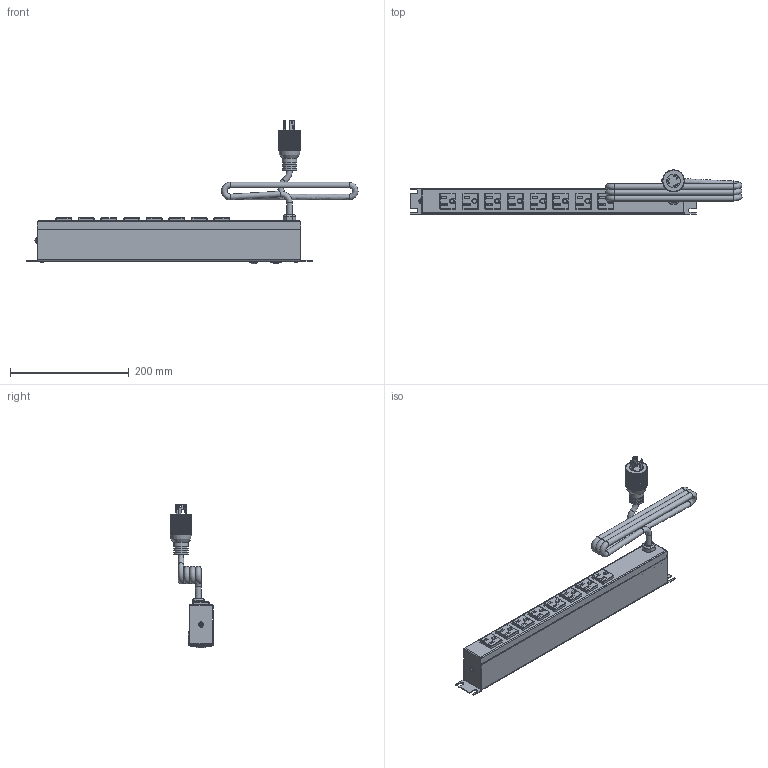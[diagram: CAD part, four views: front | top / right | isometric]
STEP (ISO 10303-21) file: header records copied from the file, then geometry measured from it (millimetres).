
FILE_DESCRIPTION((''),'2;1');
FILE_NAME('E:\Dutton\Manufacturing\drawings\Updated 2009\POWER BARS\1583 Series\STEP''s\1583H8C1BK.stp','2010-01-07T08:39:35',('tfoster'),(''),'Autodesk Inventor 2010','Autodesk Inventor 2010','');
FILE_SCHEMA(('AUTOMOTIVE_DESIGN { 1 0 10303 214 1 1 1 1 }'));
Products named in the file (12): 1583H8C1BK; 1583 Front plate; 1583H8 Back Plate; #6 - 0.375 Type A screw; Reset Switch; Power Switch Assembly; Power Switch; Power Switch pt; Twist Cored 2; Receptacle; toothwasher; round head 1-way 8-32 x 0.5 screw
Assembly tree (21 placements, depth 3):
  1583H8C1BK
    1583 Front plate
    1583H8 Back Plate
    #6 - 0.375 Type A screw  x4
    Reset Switch
    Power Switch Assembly
      Power Switch
      Power Switch pt
    Twist Cored 2
    Receptacle  x8
    toothwasher
    round head 1-way 8-32 x 0.5 screw
Bounding box: 560.01 x 74.07 x 242.11 mm (x, y, z)
Volume: 422268.4 mm3; surface area: 316333 mm2
Topology: 20 solids, 20 shells, 1211 faces, 3388 edges, 2219 vertices
Faces by surface type: plane 827, cylinder 229, bspline 78, sphere 37, cone 25, torus 15
Full cylindrical faces by diameter (mm): 1 x2, 1.803 x3, 1.905 x2, 2.286 x1, 2.997 x4, 3.175 x3, 4.3 x1, 4.801 x1, 5.563 x4, 7.849 x1, 9.5 x5, 11 x1, 21.59 x2, 22.86 x1, 24.765 x3
Entity records: 28093 total; most frequent: CARTESIAN_POINT 8358, ORIENTED_EDGE 4172, DIRECTION 3764, EDGE_CURVE 2086, VERTEX_POINT 1421, VECTOR 1366, LINE 1366, AXIS2_PLACEMENT_3D 1199
